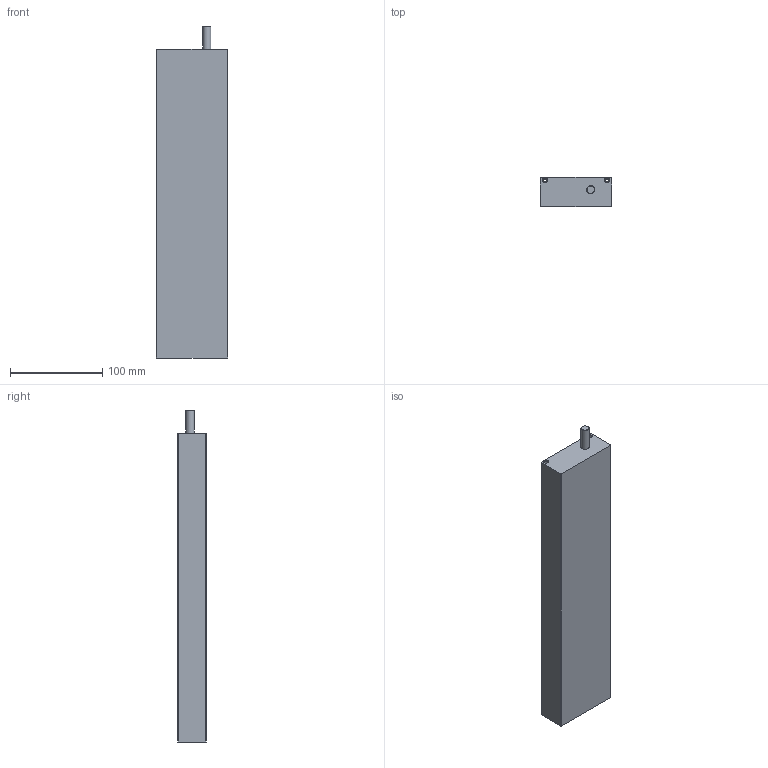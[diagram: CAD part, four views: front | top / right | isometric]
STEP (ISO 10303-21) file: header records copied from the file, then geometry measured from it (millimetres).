
FILE_DESCRIPTION(/* description */ ('LM Motor'),/* implementation_level */ '2;1');
FILE_NAME(/* name */ 'C:\Autodesk Vault\AUTODESK_VAULT\CAD\000-FERTIG Motors\LM-Motoren\LM000\LM080F.stp',/* time_stamp */ '2022-05-13T14:41:51+02:00',/* author */ ('FilipT'),/* organization */ ('FERTIG Motors '),/* preprocessor_version */ 'ST-DEVELOPER v18.1',/* originating_system */ 'Autodesk Inventor 2021',/* authorisation */ '');
FILE_SCHEMA (('AUTOMOTIVE_DESIGN { 1 0 10303 214 3 1 1 }'));
Length unit declared in the file: millimetre
Products named in the file (1): xxx
Bounding box: 77 x 31.3 x 360 mm (x, y, z)
Volume: 799050.1 mm3; surface area: 87113.1 mm2
Topology: 1 solids, 1 shells, 99 faces, 208 edges, 126 vertices
Faces by surface type: cone 36, cylinder 34, plane 29
Full cylindrical faces by diameter (mm): 4 x2, 4.134 x16, 5 x1, 8 x12, 9 x1
Entity records: 2619 total; most frequent: DIRECTION 488, CARTESIAN_POINT 422, ORIENTED_EDGE 392, EDGE_CURVE 196, AXIS2_PLACEMENT_3D 192, EDGE_LOOP 130, VERTEX_POINT 126, LINE 104
